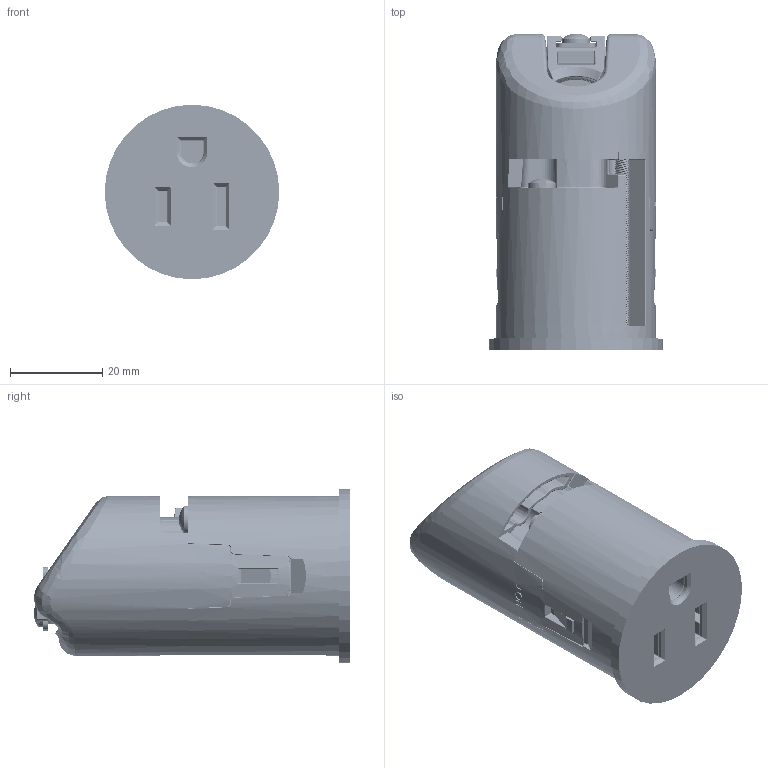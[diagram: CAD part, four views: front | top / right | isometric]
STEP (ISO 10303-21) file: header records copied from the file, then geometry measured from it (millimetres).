
FILE_DESCRIPTION((''),'2;1');
FILE_NAME('A1440657_ASM','2025-08-22T11:40:37',('FDR'),(''),'CREO PARAMETRIC BY PTC INC, 2023494','CREO PARAMETRIC BY PTC INC, 2023494','');
FILE_SCHEMA(('AP242_MANAGED_MODEL_BASED_3D_ENGINEERING_MIM_LF { 1 0 10303 442 1 1 4 }'));
Products named in the file (10): A1493663; A1400703; A1440662; A1413233; A1442174; A1443147; A1443121; A1448466; A1448113_ASM; A1440657_ASM
Assembly tree (11 placements, depth 3):
  A1440657_ASM
    A1493663
    A1400703  x2
    A1440662
    A1413233  x2
    A1448113_ASM
      A1442174
      A1443147
      A1443121
      A1448466
Bounding box: 37.9 x 68.69 x 37.9 mm (x, y, z)
Volume: 44345.4 mm3; surface area: 26942 mm2
Topology: 11 solids, 18 shells, 4078 faces, 13130 edges, 9403 vertices
Faces by surface type: cylinder 1149, plane 1070, bspline 755, cone 360, extrusion 339, torus 224, sphere 181
Entity records: 244319 total; most frequent: CARTESIAN_POINT 84177, ORIENTED_EDGE 17422, DIRECTION 16116, PRESENTATION_STYLE_ASSIGNMENT 15331, STYLED_ITEM 11936, CURVE_STYLE 11910, EDGE_CURVE 8748, VECTOR 5578
